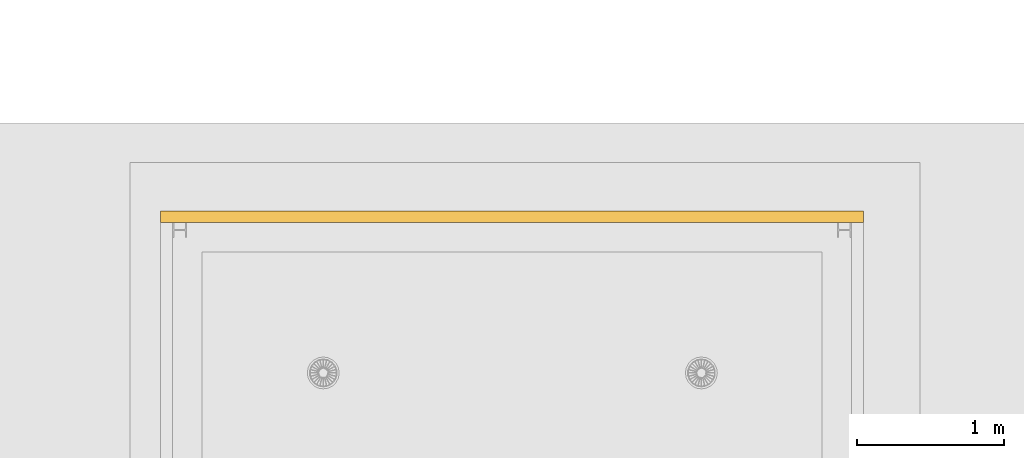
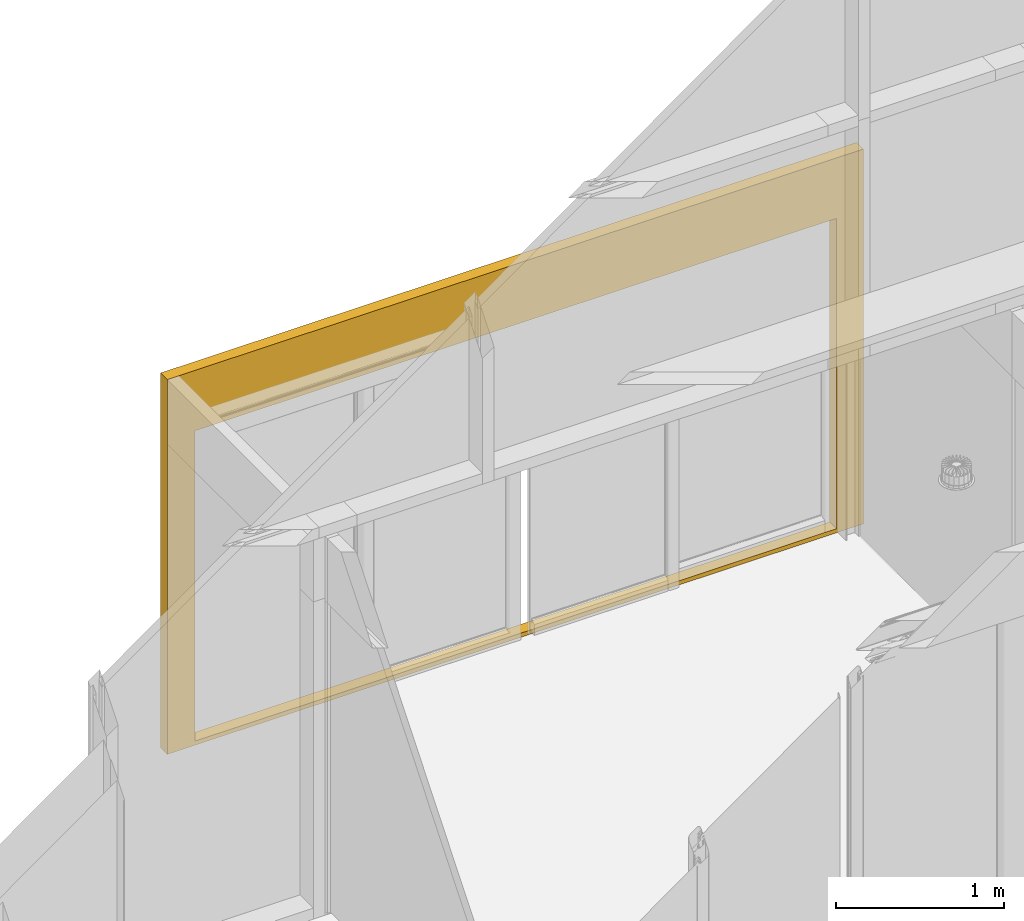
# One storey, part 244 of 302: 1 curtain wall, 1 opening, 1 element without a shape of its own.
"""IFC2X3 building model written with IfcOpenShell, lengths in metres."""

from ifc_helpers import new_model, entity, si_unit, converted_unit, derived_unit, direction, frame, frame_2d, origin, place, context, subcontext, project, spatial, rectangle, extrude, material, layer, layer_set, layer_usage, type_object, element, aggregate, save


model = new_model("IFC2X3")

# Units and contexts
model_context = context("Model", 3, precision=1e-05, world=origin(), true_north=direction((6.12303176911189e-17, 1.0)))
body_context = subcontext(model_context, "Body", "Model", "MODEL_VIEW")
ifc_project = project(units=[si_unit("LENGTHUNIT", "METRE"), si_unit("AREAUNIT", "SQUARE_METRE"), si_unit("VOLUMEUNIT", "CUBIC_METRE"), converted_unit("PLANEANGLEUNIT", "DEGREE", entity("IfcRatioMeasure", 0.0174532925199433), si_unit("PLANEANGLEUNIT", "RADIAN"), dimensions=[0, 0, 0, 0, 0, 0, 0]), si_unit("MASSUNIT", "GRAM", prefix="KILO"), derived_unit("MASSDENSITYUNIT", [(si_unit("MASSUNIT", "GRAM", prefix="KILO"), 1), (si_unit("LENGTHUNIT", "METRE"), -3)]), derived_unit("MOMENTOFINERTIAUNIT", [(si_unit("LENGTHUNIT", "METRE"), 4)]), si_unit("TIMEUNIT", "SECOND"), si_unit("FREQUENCYUNIT", "HERTZ"), si_unit("THERMODYNAMICTEMPERATUREUNIT", "DEGREE_CELSIUS"), derived_unit("THERMALTRANSMITTANCEUNIT", [(si_unit("MASSUNIT", "GRAM", prefix="KILO"), 1), (si_unit("THERMODYNAMICTEMPERATUREUNIT", "KELVIN"), -1), (si_unit("TIMEUNIT", "SECOND"), -3)]), derived_unit("VOLUMETRICFLOWRATEUNIT", [(si_unit("LENGTHUNIT", "METRE"), 3), (si_unit("TIMEUNIT", "SECOND"), -1)]), si_unit("ELECTRICCURRENTUNIT", "AMPERE"), si_unit("ELECTRICVOLTAGEUNIT", "VOLT"), si_unit("POWERUNIT", "WATT"), si_unit("FORCEUNIT", "NEWTON", prefix="KILO"), si_unit("ILLUMINANCEUNIT", "LUX"), si_unit("LUMINOUSFLUXUNIT", "LUMEN"), si_unit("LUMINOUSINTENSITYUNIT", "CANDELA"), derived_unit("USERDEFINED", [(si_unit("MASSUNIT", "GRAM", prefix="KILO"), -1), (si_unit("LENGTHUNIT", "METRE"), -2), (si_unit("TIMEUNIT", "SECOND"), 3), (si_unit("LUMINOUSFLUXUNIT", "LUMEN"), 1)]), derived_unit("LINEARVELOCITYUNIT", [(si_unit("LENGTHUNIT", "METRE"), 1), (si_unit("TIMEUNIT", "SECOND"), -1)]), si_unit("PRESSUREUNIT", "PASCAL"), derived_unit("USERDEFINED", [(si_unit("LENGTHUNIT", "METRE"), -2), (si_unit("MASSUNIT", "GRAM", prefix="KILO"), 1), (si_unit("TIMEUNIT", "SECOND"), -2)]), derived_unit("LINEARFORCEUNIT", [(si_unit("MASSUNIT", "GRAM", prefix="KILO"), 1), (si_unit("LENGTHUNIT", "METRE"), 1), (si_unit("TIMEUNIT", "SECOND"), -2), (si_unit("LENGTHUNIT", "METRE"), -1)]), derived_unit("PLANARFORCEUNIT", [(si_unit("MASSUNIT", "GRAM", prefix="KILO"), 1), (si_unit("LENGTHUNIT", "METRE"), 1), (si_unit("TIMEUNIT", "SECOND"), -2), (si_unit("LENGTHUNIT", "METRE"), -2)])], contexts=[model_context])

# Site, building, storey
site_placement = place(None, origin())
site = spatial("IfcSite", under=ifc_project, at=site_placement, Name="Default", CompositionType="ELEMENT")
building_placement = place(site_placement, origin())
building = spatial("IfcBuilding", under=site, at=building_placement, CompositionType="ELEMENT")
storey_placement = place(building_placement, frame((0.0, 0.0, -1.3)))
storey = spatial("IfcBuildingStorey", under=building, at=storey_placement, Name="00_EG", CompositionType="ELEMENT", Elevation=-1.3)

# Curtain walls, opening
curtain_wall_type_1 = type_object("IfcCurtainWallType", Name="Fassade:Sandwichpaneele 8.4 cm", PredefinedType="NOTDEFINED")
curtain_wall_1_placement = place(storey_placement, frame((0.0, 0.0, 1.3)))
curtain_wall_1 = element("IfcCurtainWall", 1, at=curtain_wall_1_placement, inside=storey, type_object=curtain_wall_type_1, Name="Fassade:Sandwichpaneele 8.4 cm", ObjectType="Fassade:Sandwichpaneele 8.4 cm")
ifc_material_1 = material(Name="Prepainted_Steel-ArcelorMittal_Construction_HAIRULTRA-35-CORAL-4309-[RAL_3000]")
ifc_layer_1 = layer(ifc_material_1, 0.005)
ifc_material_2 = material(Name="ArcelorMittal-MineralWool")
ifc_layer_2 = layer(ifc_material_2, 0.075)
ifc_layer_set = layer_set([ifc_layer_1, ifc_layer_2], Name="Fassade:Sandwichpaneele 8.4 cm")
ifc_layer_usage = layer_usage(ifc_layer_set, "AXIS2", "POSITIVE", -0.04)
curtain_wall_type_2 = type_object("IfcCurtainWallType", Name="Basiswand:Sandwichpaneele d = 8.4cm aussen", PredefinedType="NOTDEFINED", material=ifc_layer_set)
curtain_wall_2_placement = place(storey_placement, frame((-229.855861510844, 47.698088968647, 1.27), z_axis=(0.0, 0.0, 1.0), x_axis=(-1.0, 0.0, 0.0)))
curtain_wall_2 = element("IfcCurtainWall", 2, at=curtain_wall_2_placement, type_object=curtain_wall_type_2, material=ifc_layer_usage, Name="Basiswand:Sandwichpaneele d = 8.4cm aussen", ObjectType="Basiswand:Sandwichpaneele d = 8.4cm aussen", context=body_context, shape_type="SweptSolid", body=[
    extrude(rectangle(XDim=4.79599999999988, YDim=0.0799999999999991, at=frame_2d((2.39799999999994, 0.0), x_axis=(-1.0, 0.0))), origin(), (0.0, 0.0, 1.0), 2.73),
])
opening_placement = place(curtain_wall_2_placement, frame((4.60592787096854, 0.0399999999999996, 0.0299999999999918)))
element("IfcOpeningElement", 3, at=opening_placement, cuts=curtain_wall_2, Name="1009380 ASSA ABLOY Frame 4 Panel Wall Mounted:1009380 ASSA ABLOY Frame 4 Panel Wall Mounted:1", ObjectType="Opening", context=body_context, shape_type="SweptSolid", body=[
    extrude(rectangle(XDim=2.25999999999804, YDim=4.42, at=frame_2d((1.12999999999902, 2.21), x_axis=(-1.0, 0.0))), frame((0.0, 0.0, 0.0), z_axis=(0.0, -1.0, 0.0), x_axis=(0.0, 0.0, 1.0)), (0.0, 0.0, 1.0), 0.08),
])
aggregate(curtain_wall_1, [curtain_wall_2])

save(model, "model.ifc")
